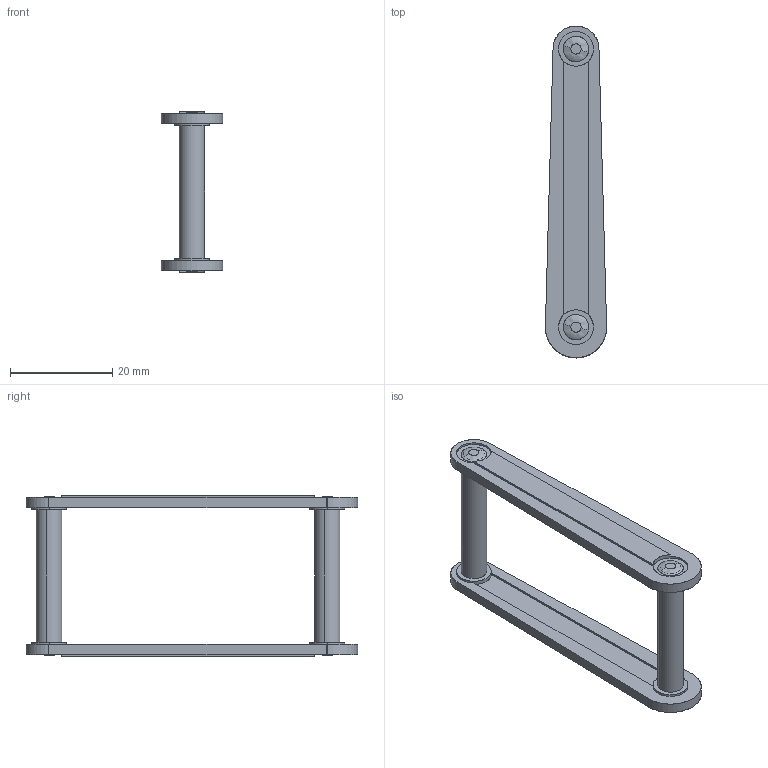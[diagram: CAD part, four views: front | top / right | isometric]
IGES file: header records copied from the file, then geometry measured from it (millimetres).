
Start section: SolidWorks IGES FILE using analytic representation for surfaces
Global section: file name: C:\Documents and Settings\lecoutey\Bureau\GP 1047\Assemblage biellettes 1047.IGS; native system: SolidWorks 2004 by SolidWorks Corporation; preprocessor: Version 5.3; author: lecoutey; date: 050329.154305; units: millimetre
Bounding box: 12 x 65 x 31.6 mm (x, y, z)
Surface area: 4514.1 mm2 (no closed solid volume)
Topology: 0 solids, 0 shells, 92 faces, 1856 edges, 1856 vertices
Faces by surface type: bspline 48, revolution 44
